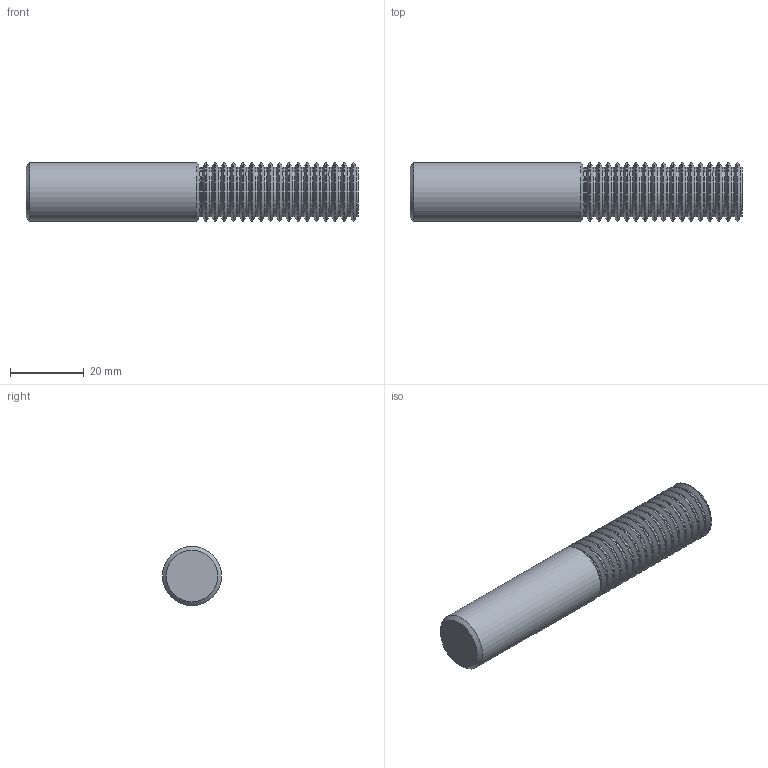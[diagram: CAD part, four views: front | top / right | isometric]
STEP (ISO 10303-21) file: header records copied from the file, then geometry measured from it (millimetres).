
FILE_DESCRIPTION(/* description */ (''),/* implementation_level */ '2;1');
FILE_NAME(/* name */ '00031056-TDM',/* time_stamp */ '2024-02-12T07:00:41+01:00',/* author */ (''),/* organization */ (''),/* preprocessor_version */ 'ST-DEVELOPER v16.5',/* originating_system */ 'HiCAD 2017 2201.0 Build 268',/* authorisation */ '');
FILE_SCHEMA (('AUTOMOTIVE_DESIGN { 1 0 10303 214 1 1 1 1 }'));
Length unit declared in the file: millimetre
Products named in the file (3): Root; ROTATIONSTEIL_0
Assembly tree (2 placements, depth 3):
  Root
    ROTATIONSTEIL_0
      ROTATIONSTEIL_0
Bounding box: 90 x 16 x 16 mm (x, y, z)
Volume: 16368.9 mm3; surface area: 6073.6 mm2
Topology: 2 solids, 2 shells, 112 faces, 230 edges, 122 vertices
Faces by surface type: cylinder 37, cone 36, torus 35, plane 4
Full cylindrical faces by diameter (mm): 13.322 x19, 15.95 x17, 16 x1
Entity records: 3384 total; most frequent: DIRECTION 452, CARTESIAN_POINT 336, AXIS2_PLACEMENT_3D 226, PRESENTATION_STYLE_ASSIGNMENT 222, COLOUR_RGB 222, DRAUGHTING_PRE_DEFINED_CURVE_FONT 220, CURVE_STYLE 220, OVER_RIDING_STYLED_ITEM 220
